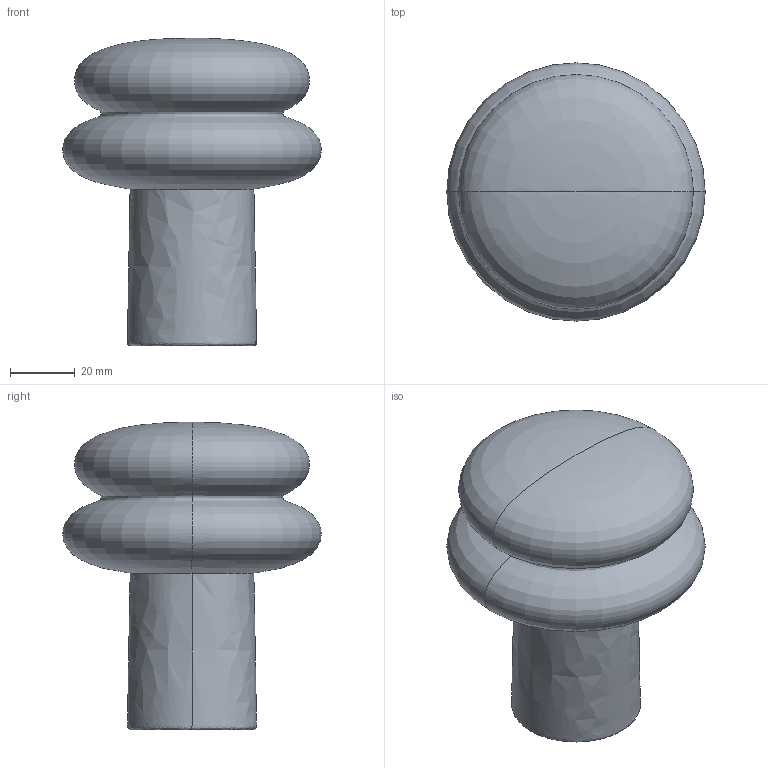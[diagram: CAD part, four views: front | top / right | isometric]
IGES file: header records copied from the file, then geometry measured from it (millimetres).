
Global section: file name: /Users/064_p/Desktop/; native system: Rhinoceros ( Jul  7 2025 ); preprocessor: Trout Lake IGES 012 Jul  7 2025; date: 260825.083843; units: millimetre
Bounding box: 79.98 x 80 x 95.23 mm (x, y, z)
Surface area: 24454.3 mm2 (no closed solid volume)
Topology: 0 solids, 0 shells, 5 faces, 20 edges, 18 vertices
Faces by surface type: bspline 5
